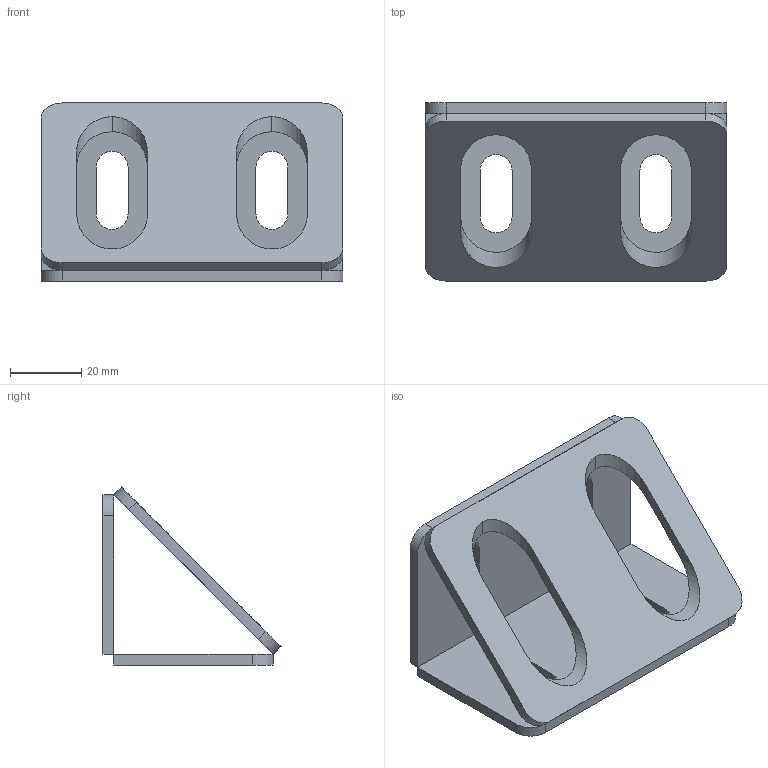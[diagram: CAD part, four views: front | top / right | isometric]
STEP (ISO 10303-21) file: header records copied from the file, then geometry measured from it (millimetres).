
FILE_DESCRIPTION (( 'STEP AP214' ), '1' );
FILE_NAME ('8303.STEP', '2017-10-20T09:40:08', ( '' ), ( '' ), 'SwSTEP 2.0', 'SolidWorks 2014', '' );
FILE_SCHEMA (( 'AUTOMOTIVE_DESIGN' ));
Length unit declared in the file: millimetre
Products named in the file (6): 8303 - 1; 8303; 8303 - 2
Assembly tree (3 placements, depth 2):
  8303 - 1
  8303 - 1
  8303
    8303 - 1  x2
    8303 - 2
  8303 - 2
Bounding box: 85 x 50.12 x 50.12 mm (x, y, z)
Volume: 31593.4 mm3; surface area: 24893.3 mm2
Topology: 3 solids, 3 shells, 52 faces, 138 edges, 92 vertices
Faces by surface type: plane 30, cylinder 22
Entity records: 1291 total; most frequent: CARTESIAN_POINT 239, ORIENTED_EDGE 192, DIRECTION 190, EDGE_CURVE 96, VECTOR 64, LINE 64, VERTEX_POINT 64, AXIS2_PLACEMENT_3D 63
